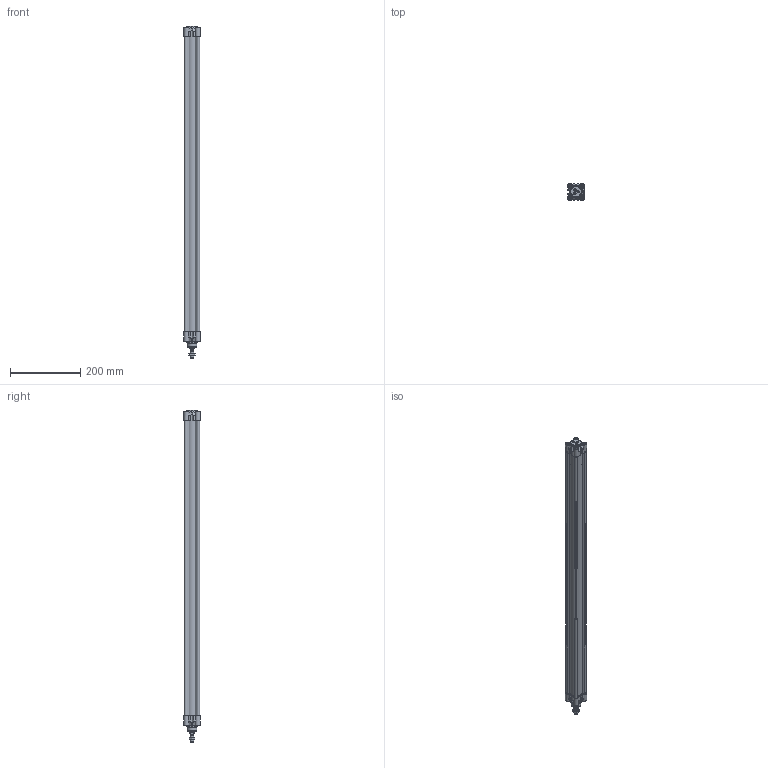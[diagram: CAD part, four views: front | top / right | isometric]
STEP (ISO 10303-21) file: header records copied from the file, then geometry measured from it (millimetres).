
FILE_DESCRIPTION(/* description */ ('Unknown'),/* implementation_level */ '2;1');
FILE_NAME(/* name */ 'HIFO 32_800',/* time_stamp */ '2024-08-14T07:08:11+02:00',/* author */ ('Unknown'),/* organization */ ('Unknown'),/* preprocessor_version */ 'ST-DEVELOPER v16.7',/* originating_system */ 'Solid Edge',/* authorisation */ 'Unknown');
FILE_SCHEMA (('AUTOMOTIVE_DESIGN {1 0 10303 214 3 1 1}'));
Length unit declared in the file: millimetre
Products named in the file (6): HIFO 32_800; Profilrohr 32_800; Kit_1; Mutter; Kit_2; Kolbenstange 32_800
Assembly tree (5 placements, depth 2):
  HIFO 32_800
    Profilrohr 32_800
    Kit_1
    Mutter
    Kit_2
    Kolbenstange 32_800
Bounding box: 47 x 47 x 946 mm (x, y, z)
Volume: 656479.7 mm3; surface area: 472172.3 mm2
Topology: 5 solids, 9 shells, 982 faces, 2506 edges, 1629 vertices
Faces by surface type: cylinder 372, plane 349, cone 98, torus 77, bspline 66, sphere 20
Full cylindrical faces by diameter (mm): 2.1 x1, 3 x1, 3.5 x1, 4.917 x16, 6 x9, 6.2 x8, 7 x1, 7.9 x1, 7.991 x1, 8 x1, 8.56 x1, 8.566 x2, 8.647 x1, 10 x9, 10.3 x8, 11.6 x1, 11.804 x1, 12 x2, 12.8 x1, 12.847 x1, 16 x1, 22 x2, 28 x1, 30 x2, 32 x2
Entity records: 37983 total; most frequent: CARTESIAN_POINT 9489, ORIENTED_EDGE 4876, DIRECTION 4449, EDGE_CURVE 2438, AXIS2_PLACEMENT_3D 1748, VERTEX_POINT 1613, FACE_BOUND 1141, EDGE_LOOP 1133
